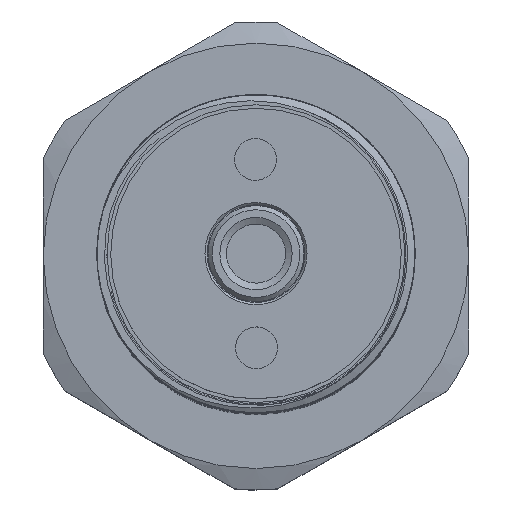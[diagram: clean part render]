
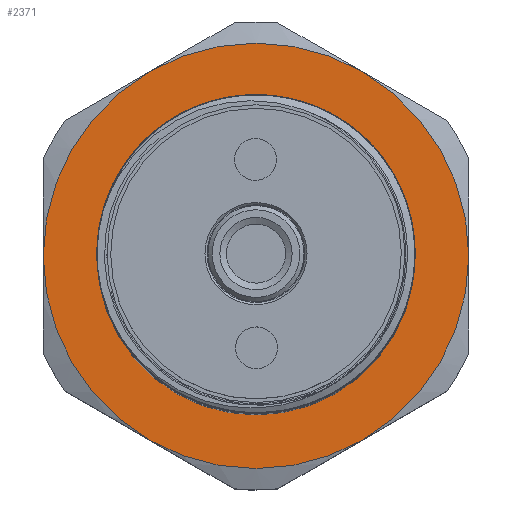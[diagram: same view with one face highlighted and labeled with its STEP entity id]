
A CAD part, top view. The second image highlights one B-rep face of the part: STEP entity #2371.
In plain terms, the highlighted planar face has unit normal (0, 0, 1).
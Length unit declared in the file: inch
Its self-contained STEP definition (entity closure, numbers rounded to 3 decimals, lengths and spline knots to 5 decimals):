
#69=PLANE('',#2603);
#187=CIRCLE('',#2604,0.5);
#188=CIRCLE('',#2605,0.5);
#189=CIRCLE('',#2606,0.5);
#190=CIRCLE('',#2607,0.5);
#191=CIRCLE('',#2608,0.5);
#192=CIRCLE('',#2609,0.5);
#193=CIRCLE('',#2610,0.35435);
#194=CIRCLE('',#2611,0.35435);
#276=FACE_BOUND('',#514,.T.);
#359=FACE_OUTER_BOUND('',#513,.T.);
#513=EDGE_LOOP('',(#1748,#1749,#1750,#1751,#1752,#1753));
#514=EDGE_LOOP('',(#1754,#1755));
#980=VERTEX_POINT('',#5086);
#981=VERTEX_POINT('',#5087);
#982=VERTEX_POINT('',#5089);
#983=VERTEX_POINT('',#5091);
#984=VERTEX_POINT('',#5093);
#985=VERTEX_POINT('',#5095);
#986=VERTEX_POINT('',#5098);
#987=VERTEX_POINT('',#5099);
#1269=EDGE_CURVE('',#980,#981,#187,.T.);
#1270=EDGE_CURVE('',#981,#982,#188,.T.);
#1271=EDGE_CURVE('',#982,#983,#189,.T.);
#1272=EDGE_CURVE('',#983,#984,#190,.T.);
#1273=EDGE_CURVE('',#984,#985,#191,.T.);
#1274=EDGE_CURVE('',#985,#980,#192,.T.);
#1275=EDGE_CURVE('',#986,#987,#193,.T.);
#1276=EDGE_CURVE('',#987,#986,#194,.T.);
#1748=ORIENTED_EDGE('',*,*,#1269,.T.);
#1749=ORIENTED_EDGE('',*,*,#1270,.T.);
#1750=ORIENTED_EDGE('',*,*,#1271,.T.);
#1751=ORIENTED_EDGE('',*,*,#1272,.T.);
#1752=ORIENTED_EDGE('',*,*,#1273,.T.);
#1753=ORIENTED_EDGE('',*,*,#1274,.T.);
#1754=ORIENTED_EDGE('',*,*,#1275,.T.);
#1755=ORIENTED_EDGE('',*,*,#1276,.T.);
#2371=ADVANCED_FACE('',(#359,#276),#69,.T.);
#2603=AXIS2_PLACEMENT_3D('',#5085,#3071,#3072);
#2604=AXIS2_PLACEMENT_3D('',#5088,#3073,#3074);
#2605=AXIS2_PLACEMENT_3D('',#5090,#3075,#3076);
#2606=AXIS2_PLACEMENT_3D('',#5092,#3077,#3078);
#2607=AXIS2_PLACEMENT_3D('',#5094,#3079,#3080);
#2608=AXIS2_PLACEMENT_3D('',#5096,#3081,#3082);
#2609=AXIS2_PLACEMENT_3D('',#5097,#3083,#3084);
#2610=AXIS2_PLACEMENT_3D('',#5100,#3085,#3086);
#2611=AXIS2_PLACEMENT_3D('',#5101,#3087,#3088);
#3071=DIRECTION('center_axis',(0.,0.,1.));
#3072=DIRECTION('ref_axis',(1.,0.,0.));
#3073=DIRECTION('center_axis',(0.,0.,1.));
#3074=DIRECTION('ref_axis',(0.,1.,0.));
#3075=DIRECTION('center_axis',(0.,0.,1.));
#3076=DIRECTION('ref_axis',(0.,1.,0.));
#3077=DIRECTION('center_axis',(0.,0.,1.));
#3078=DIRECTION('ref_axis',(0.,1.,0.));
#3079=DIRECTION('center_axis',(0.,0.,1.));
#3080=DIRECTION('ref_axis',(0.,1.,0.));
#3081=DIRECTION('center_axis',(0.,0.,1.));
#3082=DIRECTION('ref_axis',(0.,1.,0.));
#3083=DIRECTION('center_axis',(0.,0.,1.));
#3084=DIRECTION('ref_axis',(0.,1.,0.));
#3085=DIRECTION('center_axis',(0.,0.,-1.));
#3086=DIRECTION('ref_axis',(1.,0.,0.));
#3087=DIRECTION('center_axis',(0.,0.,-1.));
#3088=DIRECTION('ref_axis',(1.,0.,0.));
#5085=CARTESIAN_POINT('Origin',(0.,0.,
0.416));
#5086=CARTESIAN_POINT('',(-0.5,0.,0.416));
#5087=CARTESIAN_POINT('',(-0.25,-0.43301,0.416));
#5088=CARTESIAN_POINT('Origin',(0.,0.,0.416));
#5089=CARTESIAN_POINT('',(0.25,-0.43301,0.416));
#5090=CARTESIAN_POINT('Origin',(0.,0.,0.416));
#5091=CARTESIAN_POINT('',(0.5,0.,0.416));
#5092=CARTESIAN_POINT('Origin',(0.,0.,0.416));
#5093=CARTESIAN_POINT('',(0.25,0.43301,0.416));
#5094=CARTESIAN_POINT('Origin',(0.,0.,0.416));
#5095=CARTESIAN_POINT('',(-0.25,0.43301,0.416));
#5096=CARTESIAN_POINT('Origin',(0.,0.,0.416));
#5097=CARTESIAN_POINT('Origin',(0.,0.,0.416));
#5098=CARTESIAN_POINT('',(0.,0.35435,0.416));
#5099=CARTESIAN_POINT('',(0.,-0.35435,0.416));
#5100=CARTESIAN_POINT('Origin',(0.,0.,0.416));
#5101=CARTESIAN_POINT('Origin',(0.,0.,0.416));
